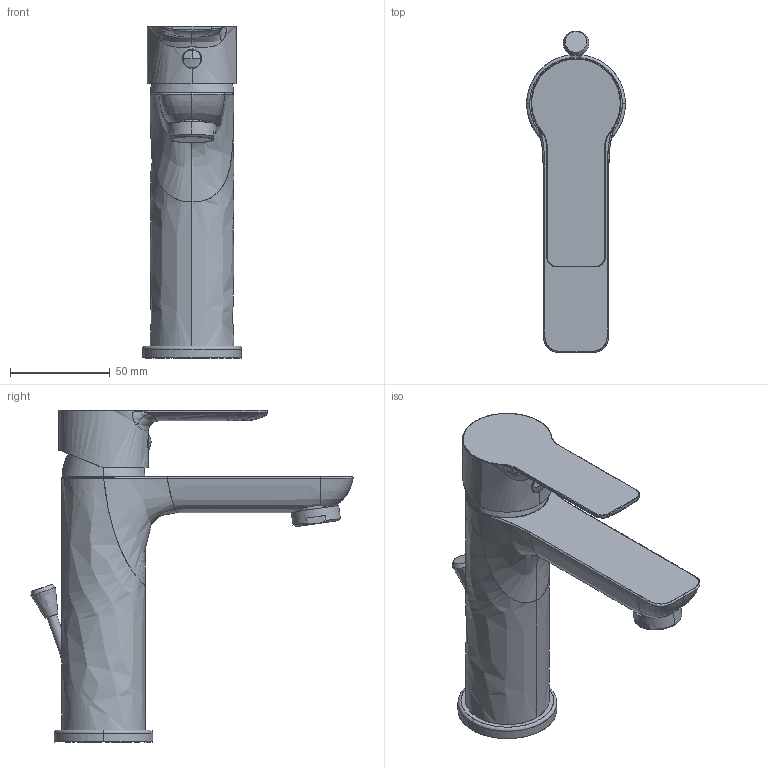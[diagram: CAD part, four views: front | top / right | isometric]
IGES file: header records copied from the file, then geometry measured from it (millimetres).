
Global section: file name: d:\users\matthias.isele\Desktop\a1_planungsdaten\final\A11020002010.igs; native system: Rhinoceros ( Sep 13 2016 ); preprocessor: Trout Lake IGES 012 Sep 13 2016; date: 191021.135438; units: millimetre
Bounding box: 49.5 x 161.53 x 166.5 mm (x, y, z)
Surface area: 45615.7 mm2 (no closed solid volume)
Topology: 0 solids, 0 shells, 141 faces, 1310 edges, 1307 vertices
Faces by surface type: bspline 141
